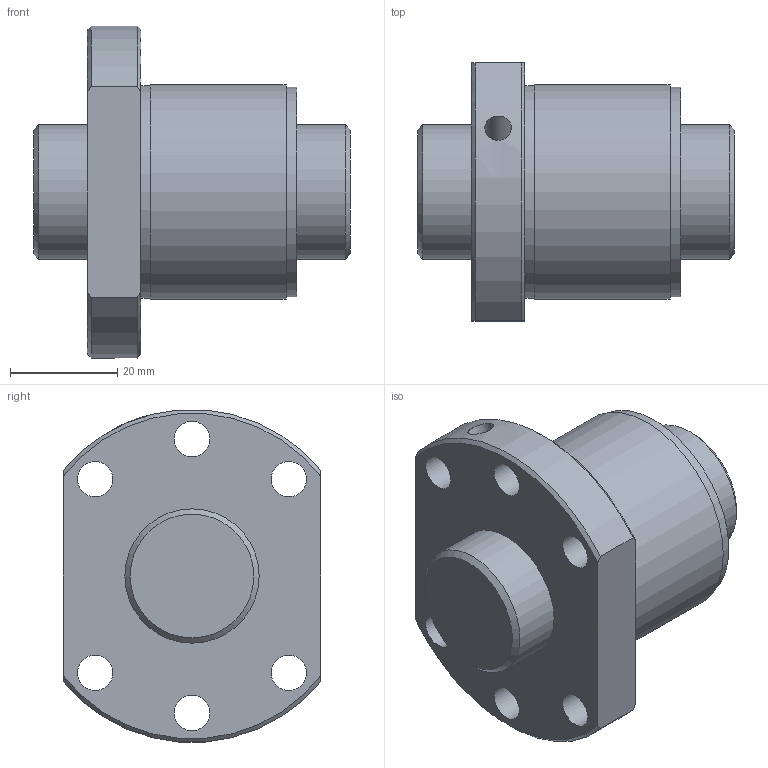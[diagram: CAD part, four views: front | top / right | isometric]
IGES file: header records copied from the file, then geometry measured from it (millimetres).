
Start section: Data from Parasolid IGES Translator 26.0.171, Copyright(c) 2006 Siemens PLM Software. All Rights Reserved.
Global section: file name: SDA2510V-3G0+59LC0(0G000).igs; native system: By Siemens PLM Incorporated; preprocessor: XPlus GENERIC/IGES 26.0.171; author: Noname; organization: Noname; date: 20240528.113043; units: millimetre
Bounding box: 59 x 48 x 61.8 mm (x, y, z)
Surface area: 19439.2 mm2 (no closed solid volume)
Topology: 0 solids, 0 shells, 31 faces, 142 edges, 121 vertices
Faces by surface type: revolution 22, extrusion 9
